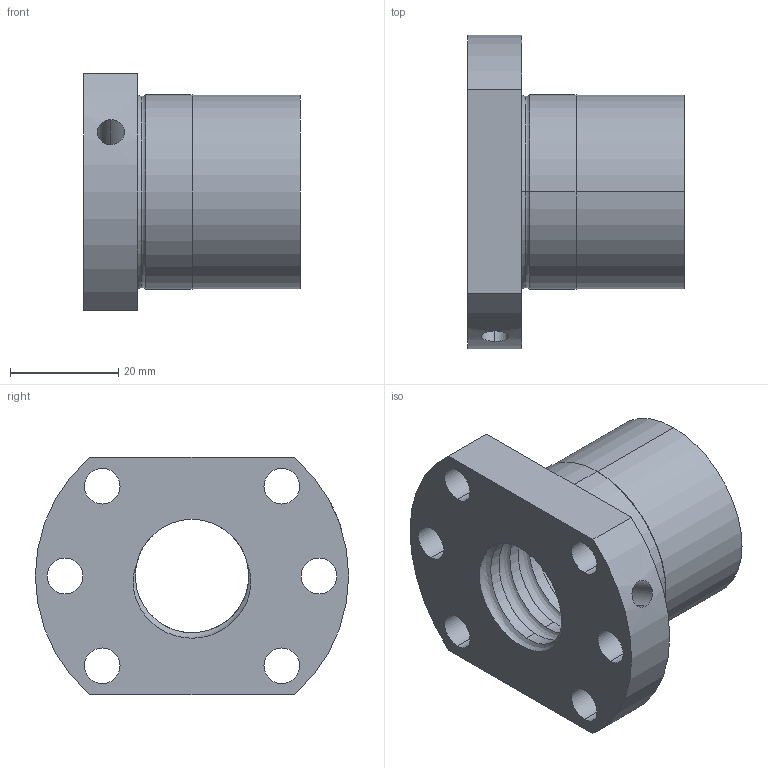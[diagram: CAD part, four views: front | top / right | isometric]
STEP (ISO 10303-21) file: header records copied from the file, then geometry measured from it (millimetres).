
FILE_DESCRIPTION (( 'STEP AP214' ), '1' );
FILE_NAME ('LLE2005-F.STEP', '2020-12-17T06:30:24', ( 'user' ), ( 'datathink' ), 'SwSTEP 2.0', 'SolidWorks 2013', '' );
FILE_SCHEMA (( 'AUTOMOTIVE_DESIGN' ));
Length unit declared in the file: millimetre
Products named in the file (1): LLE2005-F
Bounding box: 40 x 58 x 44 mm (x, y, z)
Volume: 35650.9 mm3; surface area: 13282 mm2
Topology: 1 solids, 1 shells, 51 faces, 140 edges, 92 vertices
Faces by surface type: cylinder 39, plane 7, torus 4, bspline 1
Entity records: 2994 total; most frequent: CARTESIAN_POINT 1694, ORIENTED_EDGE 280, DIRECTION 244, EDGE_CURVE 140, AXIS2_PLACEMENT_3D 100, VERTEX_POINT 92, EDGE_LOOP 68, FACE_OUTER_BOUND 51
